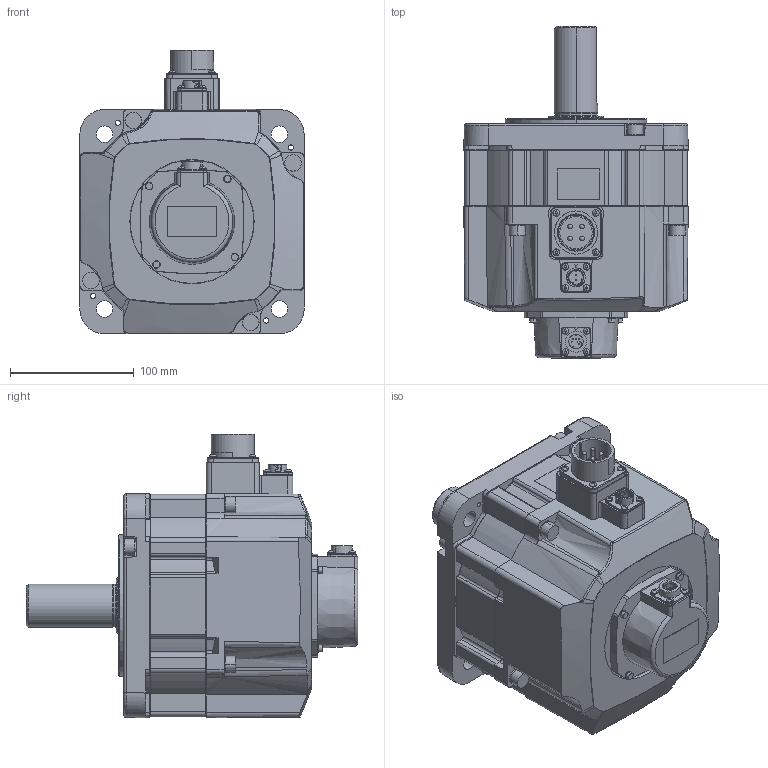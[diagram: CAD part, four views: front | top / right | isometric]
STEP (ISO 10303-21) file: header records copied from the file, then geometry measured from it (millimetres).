
FILE_DESCRIPTION((''),'2;1');
FILE_NAME('ECM-B3M-E21820SS1-1','2019-05-30T',('MIO.CHEN'),(''),'CREO PARAMETRIC BY PTC INC, 2015080','CREO PARAMETRIC BY PTC INC, 2015080','');
FILE_SCHEMA(('CONFIG_CONTROL_DESIGN'));
Length unit declared in the file: millimetre
Products named in the file (1): ECM-B3M-E21820SS1-1
Bounding box: 181.49 x 268.5 x 229.44 mm (x, y, z)
Volume: 4505398.2 mm3; surface area: 222417.6 mm2
Topology: 1 solids, 6 shells, 1253 faces, 3201 edges, 2065 vertices
Faces by surface type: cylinder 542, plane 414, cone 120, bspline 113, torus 47, sphere 13, extrusion 4
Entity records: 45693 total; most frequent: CARTESIAN_POINT 15282, DIRECTION 6406, ORIENTED_EDGE 6382, EDGE_CURVE 3191, AXIS2_PLACEMENT_3D 2504, VERTEX_POINT 2065, EDGE_LOOP 1404, VECTOR 1398
